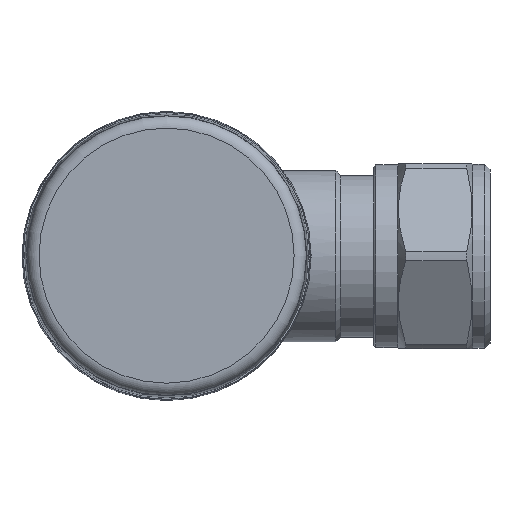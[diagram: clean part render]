
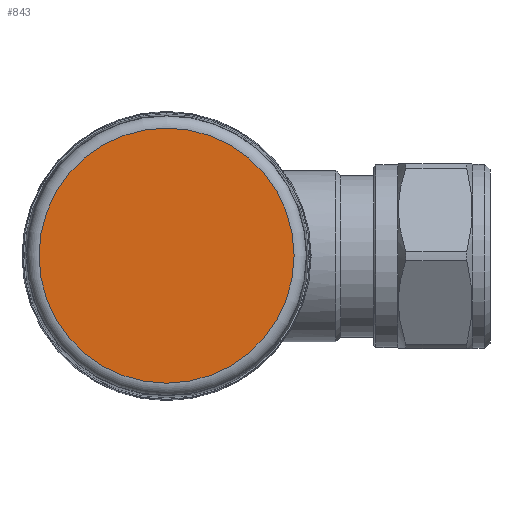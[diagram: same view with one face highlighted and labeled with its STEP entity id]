
A CAD part, top view. The second image highlights one B-rep face of the part: STEP entity #843.
In plain terms, the highlighted planar face has unit normal (0, 0, 1).
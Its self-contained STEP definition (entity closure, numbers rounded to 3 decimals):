
#111=CIRCLE('',#950,16.563);
#179=FACE_OUTER_BOUND('',#251,.T.);
#251=EDGE_LOOP('',(#725));
#434=VERTEX_POINT('',#1562);
#542=EDGE_CURVE('',#434,#434,#111,.T.);
#725=ORIENTED_EDGE('',*,*,#542,.F.);
#796=PLANE('',#949);
#843=ADVANCED_FACE('',(#179),#796,.T.);
#949=AXIS2_PLACEMENT_3D('',#1561,#1177,#1178);
#950=AXIS2_PLACEMENT_3D('',#1563,#1179,#1180);
#1177=DIRECTION('center_axis',(0.,0.,1.));
#1178=DIRECTION('ref_axis',(1.,0.,0.));
#1179=DIRECTION('center_axis',(0.,0.,-1.));
#1180=DIRECTION('ref_axis',(-1.,0.,0.));
#1561=CARTESIAN_POINT('Origin',(-8.282,0.,44.037));
#1562=CARTESIAN_POINT('',(-16.563,0.,44.037));
#1563=CARTESIAN_POINT('Origin',(0.,0.,44.037));
